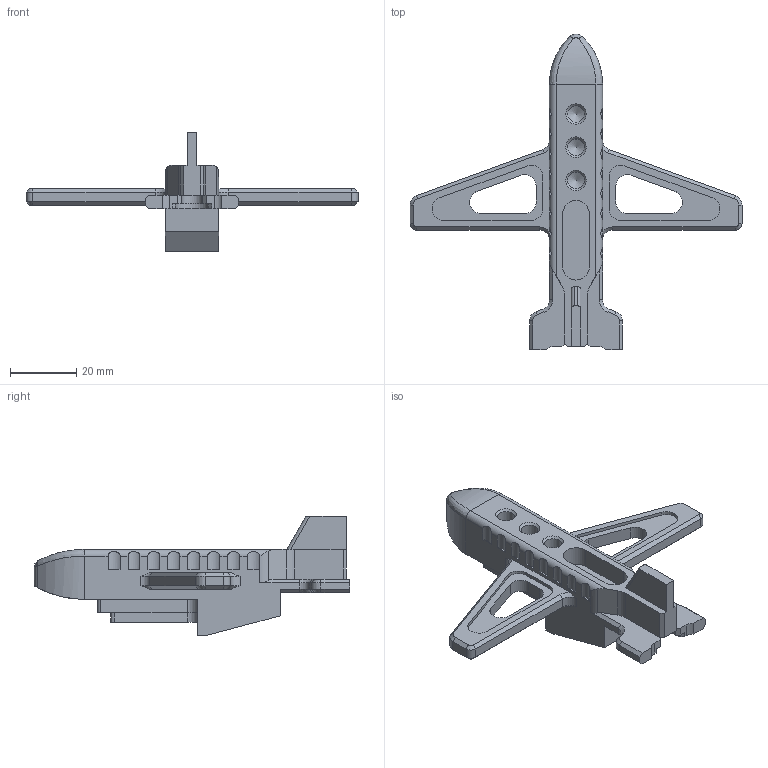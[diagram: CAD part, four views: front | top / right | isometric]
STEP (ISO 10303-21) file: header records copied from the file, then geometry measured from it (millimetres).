
FILE_DESCRIPTION(('STEP AP203'), '1');
FILE_NAME('Ìîäóëü Â - Ìîäåëü', '', ('UNSPECIFIED'), ('UNSPECIFIED'), 'C3D Converter', 'C3D Toolkit', '');
FILE_SCHEMA(('CONFIG_CONTROL_DESIGN'));
Length unit declared in the file: millimetre
Products named in the file (1): самолет
Bounding box: 100 x 95.07 x 36 mm (x, y, z)
Volume: 27646.9 mm3; surface area: 11388.8 mm2
Topology: 1 solids, 1 shells, 225 faces, 596 edges, 378 vertices
Faces by surface type: plane 120, cylinder 70, cone 30, bspline 5
Full cylindrical faces by diameter (mm): 5 x3
Entity records: 10384 total; most frequent: CARTESIAN_POINT 4850, ORIENTED_EDGE 1168, DIRECTION 1103, EDGE_CURVE 584, LINE 397, VECTOR 397, VERTEX_POINT 375, AXIS2_PLACEMENT_3D 353
